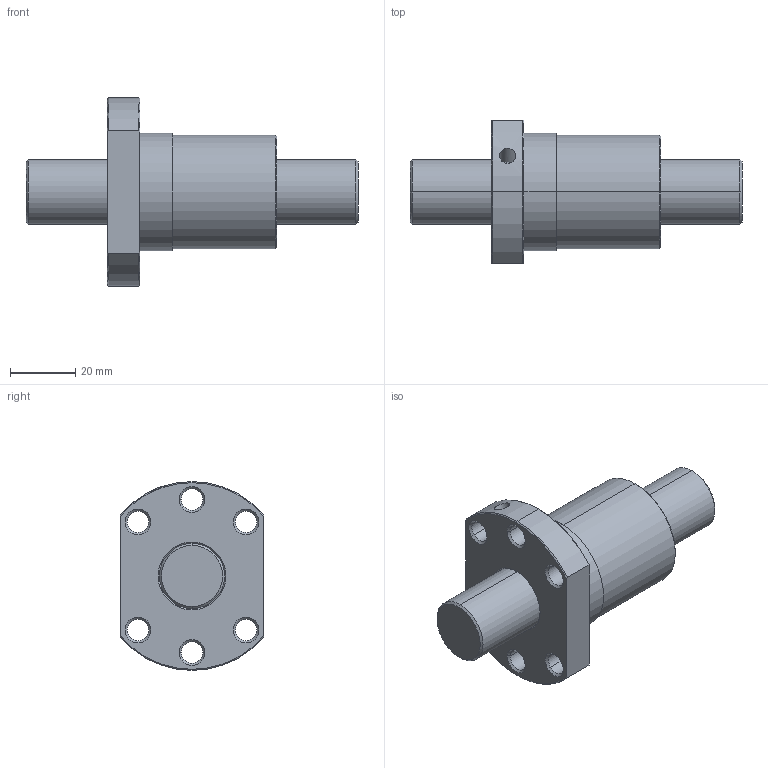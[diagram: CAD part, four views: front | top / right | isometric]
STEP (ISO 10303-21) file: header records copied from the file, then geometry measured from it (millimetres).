
FILE_DESCRIPTION(('no description'),'unknown implementation level');
FILE_NAME('R20_05T4_DEB_102_102_0_023_25.stp',' ',('HIWIN GmbH'),('CADClick - KiM GmbH - www.kimweb.de'),'unknown preprocess','ACIS','unknown authorization');
FILE_SCHEMA(('CONFIG_CONTROL_DESIGN'));
Length unit declared in the file: millimetre
Products named in the file (2): 1; 2
Bounding box: 102 x 44 x 58 mm (x, y, z)
Volume: 77085.6 mm3; surface area: 21418.3 mm2
Topology: 2 solids, 2 shells, 78 faces, 176 edges, 103 vertices
Faces by surface type: cone 44, cylinder 26, plane 8
Entity records: 2329 total; most frequent: CARTESIAN_POINT 440, DIRECTION 416, ORIENTED_EDGE 348, EDGE_CURVE 174, AXIS2_PLACEMENT_3D 172, VERTEX_POINT 103, EDGE_LOOP 95, CIRCLE 92
